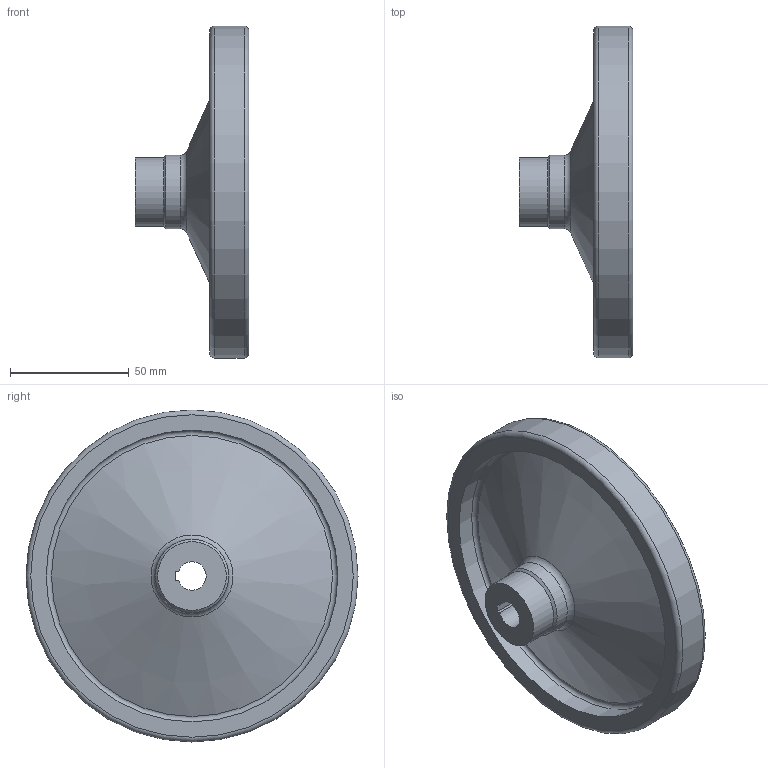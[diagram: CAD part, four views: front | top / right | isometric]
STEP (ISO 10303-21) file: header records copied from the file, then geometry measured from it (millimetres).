
FILE_DESCRIPTION( ( 'STEP AP203' ), '1' );
FILE_NAME( 'C:/Temp/Ganter_Step_05_03_2020/data/1_3/gn_321_5/gn_321_5_a/gn_321_5_a_zi/Safety handwheel GN 321.5-140-K12-A-ZI.stp', '2020-03-05T10:42:38', ( 'License CC BY-ND 4.0' ), ( 'CADENAS' ), ' ', 'PARTsolutions', ' ' );
FILE_SCHEMA( ( 'CONFIG_CONTROL_DESIGN' ) );
Length unit declared in the file: millimetre
Products named in the file (1): _Safety handwheel GN 321.5-140-K12-A-ZI
Bounding box: 48 x 140 x 140 mm (x, y, z)
Volume: 148488.3 mm3; surface area: 48717 mm2
Topology: 1 solids, 1 shells, 24 faces, 46 edges, 27 vertices
Faces by surface type: plane 8, cylinder 7, torus 5, cone 4
Full cylindrical faces by diameter (mm): 29 x2, 31 x1, 104 x1, 123 x1, 140 x1
Entity records: 576 total; most frequent: DIRECTION 102, CARTESIAN_POINT 83, ORIENTED_EDGE 62, AXIS2_PLACEMENT_3D 46, EDGE_LOOP 44, FACE_OUTER_BOUND 35, EDGE_CURVE 31, VERTEX_POINT 27
